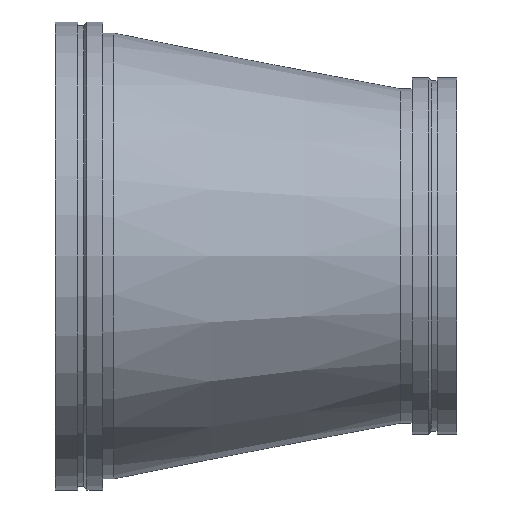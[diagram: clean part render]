
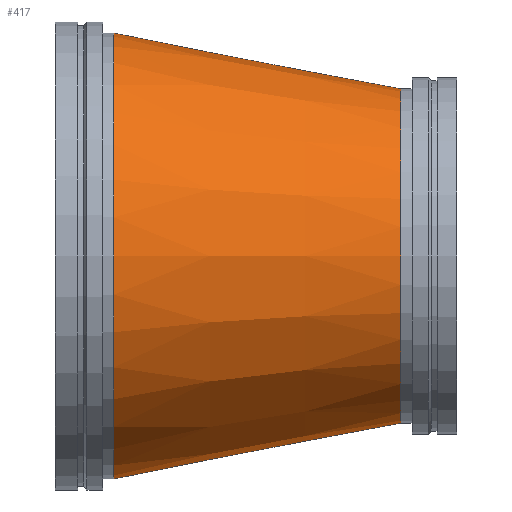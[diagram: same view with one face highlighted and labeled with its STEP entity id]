
A CAD part, front view. The second image highlights one B-rep face of the part: STEP entity #417.
In plain terms, the highlighted conical face has half-angle 10.989 degrees and reference radius 444.5 mm.
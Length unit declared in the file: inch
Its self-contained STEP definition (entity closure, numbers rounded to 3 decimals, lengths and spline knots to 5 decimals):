
#46=CONICAL_SURFACE('',#475,17.5,0.192);
#54=LINE('',#739,#68);
#68=VECTOR('',#587,17.5);
#101=FACE_OUTER_BOUND('',#124,.T.);
#124=EDGE_LOOP('',(#315,#316,#317,#318,#319,#320));
#155=CIRCLE('',#473,20.);
#156=CIRCLE('',#474,20.);
#157=CIRCLE('',#476,15.);
#158=CIRCLE('',#477,15.);
#195=VERTEX_POINT('',#729);
#196=VERTEX_POINT('',#730);
#197=VERTEX_POINT('',#735);
#198=VERTEX_POINT('',#736);
#239=EDGE_CURVE('',#195,#196,#155,.T.);
#240=EDGE_CURVE('',#196,#195,#156,.T.);
#242=EDGE_CURVE('',#197,#198,#157,.T.);
#243=EDGE_CURVE('',#198,#197,#158,.T.);
#244=EDGE_CURVE('',#198,#196,#54,.T.);
#315=ORIENTED_EDGE('',*,*,#242,.F.);
#316=ORIENTED_EDGE('',*,*,#243,.F.);
#317=ORIENTED_EDGE('',*,*,#244,.T.);
#318=ORIENTED_EDGE('',*,*,#240,.T.);
#319=ORIENTED_EDGE('',*,*,#239,.T.);
#320=ORIENTED_EDGE('',*,*,#244,.F.);
#417=ADVANCED_FACE('',(#101),#46,.T.);
#473=AXIS2_PLACEMENT_3D('',#731,#576,#577);
#474=AXIS2_PLACEMENT_3D('',#732,#578,#579);
#475=AXIS2_PLACEMENT_3D('',#734,#581,#582);
#476=AXIS2_PLACEMENT_3D('',#737,#583,#584);
#477=AXIS2_PLACEMENT_3D('',#738,#585,#586);
#576=DIRECTION('center_axis',(1.,0.,0.));
#577=DIRECTION('ref_axis',(0.,0.,-1.));
#578=DIRECTION('center_axis',(1.,0.,0.));
#579=DIRECTION('ref_axis',(0.,0.,-1.));
#581=DIRECTION('center_axis',(-1.,0.,0.));
#582=DIRECTION('ref_axis',(0.,1.,0.));
#583=DIRECTION('center_axis',(1.,0.,0.));
#584=DIRECTION('ref_axis',(0.,0.,-1.));
#585=DIRECTION('center_axis',(1.,0.,0.));
#586=DIRECTION('ref_axis',(0.,0.,-1.));
#587=DIRECTION('',(-0.982,-0.191,0.));
#729=CARTESIAN_POINT('',(5.25,20.,0.));
#730=CARTESIAN_POINT('',(5.25,-20.,0.));
#731=CARTESIAN_POINT('Origin',(5.25,0.,0.));
#732=CARTESIAN_POINT('Origin',(5.25,0.,0.));
#734=CARTESIAN_POINT('Origin',(18.125,0.,0.));
#735=CARTESIAN_POINT('',(31.,15.,0.));
#736=CARTESIAN_POINT('',(31.,-15.,0.));
#737=CARTESIAN_POINT('Origin',(31.,0.,0.));
#738=CARTESIAN_POINT('Origin',(31.,0.,0.));
#739=CARTESIAN_POINT('',(18.125,-17.5,0.));
